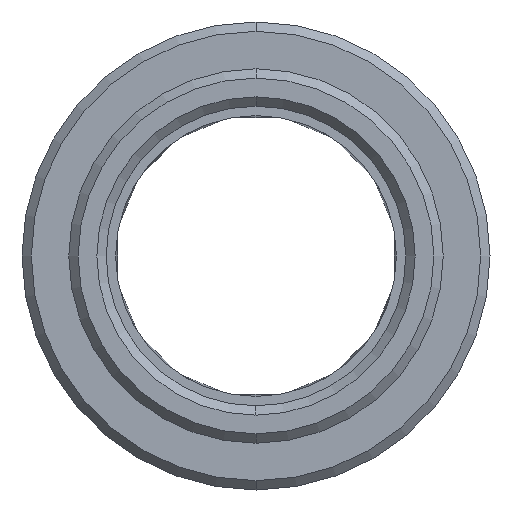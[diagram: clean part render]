
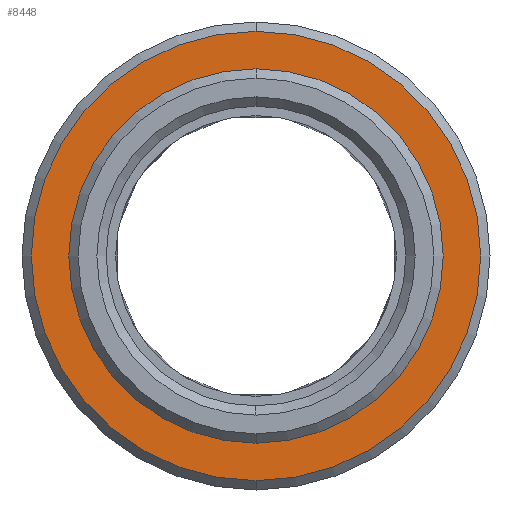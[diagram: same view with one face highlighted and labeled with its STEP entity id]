
A CAD part, left-side view. The second image highlights one B-rep face of the part: STEP entity #8448.
In plain terms, the highlighted planar face has unit normal (-1, 0, 0).
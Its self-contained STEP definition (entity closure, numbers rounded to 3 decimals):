
#3272=CARTESIAN_POINT('',(0.,0.,0.));
#3273=DIRECTION('',(1.,0.,0.));
#3274=DIRECTION('',(0.,0.,1.));
#3275=AXIS2_PLACEMENT_3D('',#3272,#3273,#3274);
#3277=CARTESIAN_POINT('',(0.,0.,0.));
#3278=DIRECTION('',(-1.,0.,0.));
#3279=DIRECTION('',(0.,0.,1.));
#3280=AXIS2_PLACEMENT_3D('',#3277,#3278,#3279);
#3282=CARTESIAN_POINT('',(0.,0.,
0.));
#3283=DIRECTION('',(1.,0.,0.));
#3284=DIRECTION('',(0.,0.,-1.));
#3285=AXIS2_PLACEMENT_3D('',#3282,#3283,#3284);
#3287=CARTESIAN_POINT('',(0.,0.,0.));
#3288=DIRECTION('',(1.,0.,0.));
#3289=DIRECTION('',(0.,0.,1.));
#3290=AXIS2_PLACEMENT_3D('',#3287,#3288,#3289);
#6730=CARTESIAN_POINT('',(0.,0.,-12.));
#6731=CARTESIAN_POINT('',(0.,0.,12.));
#6732=VERTEX_POINT('',#6730);
#6733=VERTEX_POINT('',#6731);
#6954=CARTESIAN_POINT('',(0.,0.,10.));
#6955=CARTESIAN_POINT('',(0.,0.,-10.));
#6956=VERTEX_POINT('',#6954);
#6957=VERTEX_POINT('',#6955);
#8433=CARTESIAN_POINT('',(0.,0.,0.));
#8434=DIRECTION('',(1.,0.,0.));
#8435=DIRECTION('',(0.,0.,1.));
#8436=AXIS2_PLACEMENT_3D('',#8433,#8434,#8435);
#8437=PLANE('',#8436);
#8439=ORIENTED_EDGE('',*,*,#8438,.T.);
#8441=ORIENTED_EDGE('',*,*,#8440,.T.);
#8442=EDGE_LOOP('',(#8439,#8441));
#8443=FACE_OUTER_BOUND('',#8442,.F.);
#8444=ORIENTED_EDGE('',*,*,#8415,.F.);
#8445=ORIENTED_EDGE('',*,*,#8400,.T.);
#8446=EDGE_LOOP('',(#8444,#8445));
#8447=FACE_BOUND('',#8446,.F.);
#8448=ADVANCED_FACE('',(#8443,#8447),#8437,.F.);
#3276=CIRCLE('',#3275,10.);
#3281=CIRCLE('',#3280,10.);
#3286=CIRCLE('',#3285,12.);
#3291=CIRCLE('',#3290,12.);
#8400=EDGE_CURVE('',#6956,#6957,#3281,.T.);
#8415=EDGE_CURVE('',#6956,#6957,#3276,.T.);
#8438=EDGE_CURVE('',#6732,#6733,#3286,.T.);
#8440=EDGE_CURVE('',#6733,#6732,#3291,.T.);
